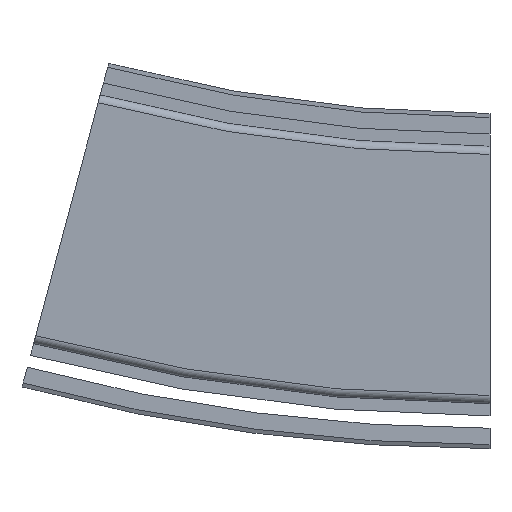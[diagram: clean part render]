
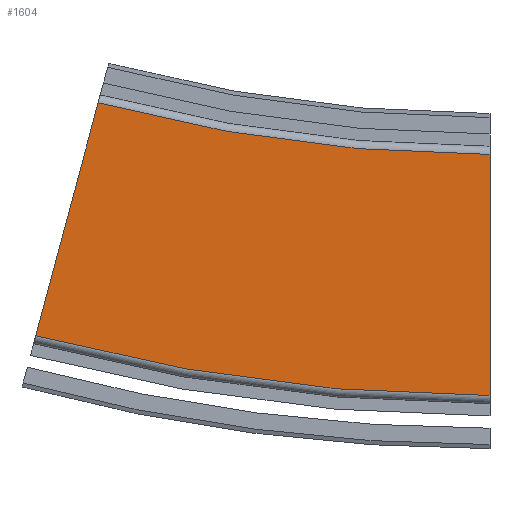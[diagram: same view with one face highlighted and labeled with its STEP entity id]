
A CAD part, front view. The second image highlights one B-rep face of the part: STEP entity #1604.
In plain terms, the highlighted planar face has unit normal (0, -1, 0).
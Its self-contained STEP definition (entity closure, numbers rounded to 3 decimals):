
#140=PLANE('',#1768);
#227=FACE_OUTER_BOUND('',#319,.T.);
#319=EDGE_LOOP('',(#1408,#1409,#1410,#1411));
#361=CIRCLE('',#1715,370.5);
#380=CIRCLE('',#1751,429.5);
#512=LINE('',#7331,#638);
#513=LINE('',#7332,#639);
#638=VECTOR('',#2170,10.);
#639=VECTOR('',#2171,10.);
#748=VERTEX_POINT('',#7181);
#749=VERTEX_POINT('',#7183);
#780=VERTEX_POINT('',#7280);
#782=VERTEX_POINT('',#7283);
#955=EDGE_CURVE('',#748,#749,#361,.T.);
#1004=EDGE_CURVE('',#780,#782,#380,.T.);
#1028=EDGE_CURVE('',#748,#780,#512,.T.);
#1029=EDGE_CURVE('',#782,#749,#513,.T.);
#1408=ORIENTED_EDGE('',*,*,#1028,.F.);
#1409=ORIENTED_EDGE('',*,*,#955,.T.);
#1410=ORIENTED_EDGE('',*,*,#1029,.F.);
#1411=ORIENTED_EDGE('',*,*,#1004,.F.);
#1604=ADVANCED_FACE('',(#227),#140,.T.);
#1715=AXIS2_PLACEMENT_3D('',#7185,#2018,#2019);
#1751=AXIS2_PLACEMENT_3D('',#7284,#2120,#2121);
#1768=AXIS2_PLACEMENT_3D('',#7330,#2168,#2169);
#2018=DIRECTION('center_axis',(0.,1.,0.));
#2019=DIRECTION('ref_axis',(0.,0.,
-1.));
#2120=DIRECTION('center_axis',(0.,1.,0.));
#2121=DIRECTION('ref_axis',(0.,0.,-1.));
#2168=DIRECTION('center_axis',(0.,-1.,0.));
#2169=DIRECTION('ref_axis',(0.,0.,-1.));
#2170=DIRECTION('',(0.,0.,-1.));
#2171=DIRECTION('',(0.259,0.,0.966));
#7181=CARTESIAN_POINT('',(0.,-73.,29.5));
#7183=CARTESIAN_POINT('',(-95.892,-73.,42.124));
#7185=CARTESIAN_POINT('Origin',(0.,-73.,
400.));
#7280=CARTESIAN_POINT('',(0.,-73.,-29.5));
#7283=CARTESIAN_POINT('',(-111.163,-73.,-14.865));
#7284=CARTESIAN_POINT('Origin',(0.,-73.,
400.));
#7330=CARTESIAN_POINT('Origin',(0.,-73.,-5.5));
#7331=CARTESIAN_POINT('',(0.,-73.,5.5));
#7332=CARTESIAN_POINT('',(-104.951,-73.,8.317));
